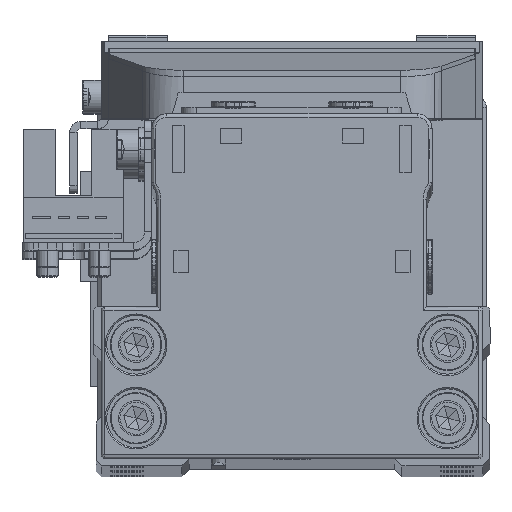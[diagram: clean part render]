
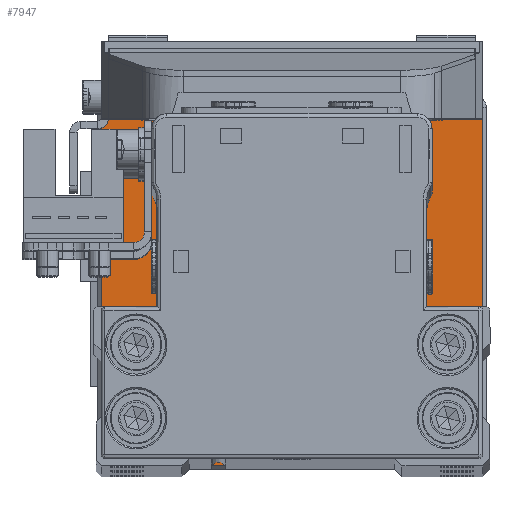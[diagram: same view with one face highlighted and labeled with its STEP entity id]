
A CAD part, top view. The second image highlights one B-rep face of the part: STEP entity #7947.
In plain terms, the highlighted planar face has unit normal (0, 0, 1).
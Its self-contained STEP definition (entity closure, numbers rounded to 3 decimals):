
#90 = AXIS2_PLACEMENT_3D ( 'NONE', #13056, #23697, #34344 ) ;
#261 = CARTESIAN_POINT ( 'NONE',  ( 25., -24.95, 6.5 ) ) ;
#367 = EDGE_CURVE ( 'NONE', #15391, #20358, #17716, .T. ) ;
#489 = DIRECTION ( 'NONE',  ( 0., 0., -1. ) ) ;
#906 = EDGE_CURVE ( 'NONE', #27609, #6110, #7268, .T. ) ;
#1055 = DIRECTION ( 'NONE',  ( 1., 0., 0. ) ) ;
#1074 = ORIENTED_EDGE ( 'NONE', *, *, #1872, .T. ) ;
#1604 = CARTESIAN_POINT ( 'NONE',  ( 0., 0., 6.5 ) ) ;
#1872 = EDGE_CURVE ( 'NONE', #11095, #23950, #6388, .T. ) ;
#2217 = DIRECTION ( 'NONE',  ( -1., 0., 0. ) ) ;
#2468 = VERTEX_POINT ( 'NONE', #21880 ) ;
#2508 = DIRECTION ( 'NONE',  ( 0., 0., 1. ) ) ;
#2681 = AXIS2_PLACEMENT_3D ( 'NONE', #5753, #16382, #27044 ) ;
#2695 = CARTESIAN_POINT ( 'NONE',  ( 21.25, 19.95, 6.5 ) ) ;
#3501 = CIRCLE ( 'NONE', #22993, 2.4 ) ;
#3809 = CIRCLE ( 'NONE', #23323, 1. ) ;
#4036 = EDGE_LOOP ( 'NONE', ( #1074, #10816 ) ) ;
#4212 = FACE_BOUND ( 'NONE', #20628, .T. ) ;
#4559 = VERTEX_POINT ( 'NONE', #18779 ) ;
#4577 = DIRECTION ( 'NONE',  ( 0., 0., -1. ) ) ;
#4831 = DIRECTION ( 'NONE',  ( -1., 0., 0. ) ) ;
#4969 = AXIS2_PLACEMENT_3D ( 'NONE', #33075, #9182, #19798 ) ;
#5056 = DIRECTION ( 'NONE',  ( 1., 0., 0. ) ) ;
#5156 = DIRECTION ( 'NONE',  ( -1., 0., 0. ) ) ;
#5375 = AXIS2_PLACEMENT_3D ( 'NONE', #26425, #2508, #13156 ) ;
#5753 = CARTESIAN_POINT ( 'NONE',  ( -25., -23.95, 6.5 ) ) ;
#6043 = AXIS2_PLACEMENT_3D ( 'NONE', #28495, #4577, #15224 ) ;
#6110 = VERTEX_POINT ( 'NONE', #17544 ) ;
#6166 = VERTEX_POINT ( 'NONE', #17901 ) ;
#6325 = ORIENTED_EDGE ( 'NONE', *, *, #30876, .T. ) ;
#6388 = CIRCLE ( 'NONE', #25900, 2.4 ) ;
#6506 = CARTESIAN_POINT ( 'NONE',  ( 18.85, 19.95, 6.5 ) ) ;
#6838 = FACE_BOUND ( 'NONE', #4036, .T. ) ;
#7268 = CIRCLE ( 'NONE', #4969, 2.4 ) ;
#7334 = CIRCLE ( 'NONE', #26855, 2.4 ) ;
#7585 = EDGE_CURVE ( 'NONE', #12183, #19236, #7334, .T. ) ;
#7876 = LINE ( 'NONE', #18507, #9857 ) ;
#7911 = ORIENTED_EDGE ( 'NONE', *, *, #29890, .T. ) ;
#7947 = ADVANCED_FACE ( 'NONE', ( #6838, #17476, #28141, #4212, #14866 ), #25517, .T. ) ;
#8106 = EDGE_CURVE ( 'NONE', #6166, #15391, #7876, .T. ) ;
#8136 = CARTESIAN_POINT ( 'NONE',  ( -23.65, 19.95, 6.5 ) ) ;
#9011 = CARTESIAN_POINT ( 'NONE',  ( 26., 23.95, 6.5 ) ) ;
#9182 = DIRECTION ( 'NONE',  ( 0., 0., -1. ) ) ;
#9248 = VECTOR ( 'NONE', #10925, 1000. ) ;
#9652 = DIRECTION ( 'NONE',  ( 0., 1., 0. ) ) ;
#9676 = AXIS2_PLACEMENT_3D ( 'NONE', #14314, #24962, #1055 ) ;
#9857 = VECTOR ( 'NONE', #29168, 1000. ) ;
#10197 = CARTESIAN_POINT ( 'NONE',  ( -21.25, 9.95, 6.5 ) ) ;
#10288 = ORIENTED_EDGE ( 'NONE', *, *, #7585, .T. ) ;
#10816 = ORIENTED_EDGE ( 'NONE', *, *, #16499, .T. ) ;
#10925 = DIRECTION ( 'NONE',  ( 1., 0., 0. ) ) ;
#11095 = VERTEX_POINT ( 'NONE', #6506 ) ;
#11122 = CARTESIAN_POINT ( 'NONE',  ( -26., -23.95, 6.5 ) ) ;
#11143 = DIRECTION ( 'NONE',  ( -1., 0., 0. ) ) ;
#11169 = VERTEX_POINT ( 'NONE', #12264 ) ;
#11222 = EDGE_CURVE ( 'NONE', #32285, #22725, #21061, .T. ) ;
#11809 = ORIENTED_EDGE ( 'NONE', *, *, #14212, .T. ) ;
#11843 = CIRCLE ( 'NONE', #31354, 2.4 ) ;
#11941 = CIRCLE ( 'NONE', #31455, 2.4 ) ;
#12183 = VERTEX_POINT ( 'NONE', #26994 ) ;
#12255 = DIRECTION ( 'NONE',  ( 0., 0., 1. ) ) ;
#12264 = CARTESIAN_POINT ( 'NONE',  ( 26., -23.95, 6.5 ) ) ;
#12470 = ORIENTED_EDGE ( 'NONE', *, *, #8106, .T. ) ;
#12922 = VECTOR ( 'NONE', #5156, 1000. ) ;
#13056 = CARTESIAN_POINT ( 'NONE',  ( -21.25, 9.95, 6.5 ) ) ;
#13156 = DIRECTION ( 'NONE',  ( 1., 0., 0. ) ) ;
#13337 = DIRECTION ( 'NONE',  ( 0., 0., -1. ) ) ;
#13904 = EDGE_CURVE ( 'NONE', #33827, #2468, #20397, .T. ) ;
#14212 = EDGE_CURVE ( 'NONE', #11169, #33827, #22882, .T. ) ;
#14314 = CARTESIAN_POINT ( 'NONE',  ( -25., 23.95, 6.5 ) ) ;
#14866 = FACE_OUTER_BOUND ( 'NONE', #18189, .T. ) ;
#15136 = CIRCLE ( 'NONE', #90, 2.4 ) ;
#15167 = CARTESIAN_POINT ( 'NONE',  ( 23.65, 19.95, 6.5 ) ) ;
#15224 = DIRECTION ( 'NONE',  ( -1., 0., 0. ) ) ;
#15229 = EDGE_CURVE ( 'NONE', #6110, #27609, #11843, .T. ) ;
#15391 = VERTEX_POINT ( 'NONE', #11122 ) ;
#15486 = CARTESIAN_POINT ( 'NONE',  ( 21.25, 19.95, 6.5 ) ) ;
#15814 = EDGE_CURVE ( 'NONE', #4559, #6166, #24717, .T. ) ;
#16062 = CARTESIAN_POINT ( 'NONE',  ( 18.85, 9.95, 6.5 ) ) ;
#16382 = DIRECTION ( 'NONE',  ( 0., 0., 1. ) ) ;
#16499 = EDGE_CURVE ( 'NONE', #23950, #11095, #11941, .T. ) ;
#17476 = FACE_BOUND ( 'NONE', #29020, .T. ) ;
#17544 = CARTESIAN_POINT ( 'NONE',  ( -18.85, 19.95, 6.5 ) ) ;
#17716 = CIRCLE ( 'NONE', #2681, 1. ) ;
#17901 = CARTESIAN_POINT ( 'NONE',  ( -26., 23.95, 6.5 ) ) ;
#18093 = CARTESIAN_POINT ( 'NONE',  ( -21.25, 19.95, 6.5 ) ) ;
#18189 = EDGE_LOOP ( 'NONE', ( #33682, #12470, #23130, #24790, #26028, #11809, #21947, #7911 ) ) ;
#18322 = CARTESIAN_POINT ( 'NONE',  ( 25., -23.95, 6.5 ) ) ;
#18404 = LINE ( 'NONE', #29065, #12922 ) ;
#18507 = CARTESIAN_POINT ( 'NONE',  ( -26., -23.95, 6.5 ) ) ;
#18779 = CARTESIAN_POINT ( 'NONE',  ( -25., 24.95, 6.5 ) ) ;
#19236 = VERTEX_POINT ( 'NONE', #20717 ) ;
#19798 = DIRECTION ( 'NONE',  ( -1., 0., 0. ) ) ;
#20358 = VERTEX_POINT ( 'NONE', #31255 ) ;
#20397 = CIRCLE ( 'NONE', #5375, 1. ) ;
#20420 = EDGE_CURVE ( 'NONE', #22958, #11169, #3809, .T. ) ;
#20628 = EDGE_LOOP ( 'NONE', ( #26055, #33022 ) ) ;
#20717 = CARTESIAN_POINT ( 'NONE',  ( -18.85, 9.95, 6.5 ) ) ;
#20816 = DIRECTION ( 'NONE',  ( 0., 0., -1. ) ) ;
#21061 = CIRCLE ( 'NONE', #6043, 2.4 ) ;
#21278 = ORIENTED_EDGE ( 'NONE', *, *, #25765, .T. ) ;
#21880 = CARTESIAN_POINT ( 'NONE',  ( 25., 24.95, 6.5 ) ) ;
#21947 = ORIENTED_EDGE ( 'NONE', *, *, #13904, .T. ) ;
#22725 = VERTEX_POINT ( 'NONE', #26448 ) ;
#22870 = DIRECTION ( 'NONE',  ( 1., 0., 0. ) ) ;
#22882 = LINE ( 'NONE', #33534, #31378 ) ;
#22958 = VERTEX_POINT ( 'NONE', #27654 ) ;
#22993 = AXIS2_PLACEMENT_3D ( 'NONE', #24397, #489, #11143 ) ;
#23130 = ORIENTED_EDGE ( 'NONE', *, *, #367, .T. ) ;
#23323 = AXIS2_PLACEMENT_3D ( 'NONE', #18322, #28975, #5056 ) ;
#23697 = DIRECTION ( 'NONE',  ( 0., 0., -1. ) ) ;
#23950 = VERTEX_POINT ( 'NONE', #15167 ) ;
#23979 = DIRECTION ( 'NONE',  ( -1., 0., 0. ) ) ;
#24175 = LINE ( 'NONE', #261, #9248 ) ;
#24397 = CARTESIAN_POINT ( 'NONE',  ( 21.25, 9.95, 6.5 ) ) ;
#24717 = CIRCLE ( 'NONE', #9676, 1. ) ;
#24790 = ORIENTED_EDGE ( 'NONE', *, *, #31315, .T. ) ;
#24962 = DIRECTION ( 'NONE',  ( 0., 0., 1. ) ) ;
#25445 = AXIS2_PLACEMENT_3D ( 'NONE', #1604, #12255, #22870 ) ;
#25517 = PLANE ( 'NONE',  #25445 ) ;
#25765 = EDGE_CURVE ( 'NONE', #19236, #12183, #15136, .T. ) ;
#25900 = AXIS2_PLACEMENT_3D ( 'NONE', #15486, #26140, #2217 ) ;
#26028 = ORIENTED_EDGE ( 'NONE', *, *, #20420, .T. ) ;
#26055 = ORIENTED_EDGE ( 'NONE', *, *, #906, .T. ) ;
#26140 = DIRECTION ( 'NONE',  ( 0., 0., -1. ) ) ;
#26425 = CARTESIAN_POINT ( 'NONE',  ( 25., 23.95, 6.5 ) ) ;
#26448 = CARTESIAN_POINT ( 'NONE',  ( 23.65, 9.95, 6.5 ) ) ;
#26855 = AXIS2_PLACEMENT_3D ( 'NONE', #10197, #20816, #31489 ) ;
#26994 = CARTESIAN_POINT ( 'NONE',  ( -23.65, 9.95, 6.5 ) ) ;
#27044 = DIRECTION ( 'NONE',  ( 1., 0., 0. ) ) ;
#27609 = VERTEX_POINT ( 'NONE', #8136 ) ;
#27654 = CARTESIAN_POINT ( 'NONE',  ( 25., -24.95, 6.5 ) ) ;
#28141 = FACE_BOUND ( 'NONE', #33047, .T. ) ;
#28495 = CARTESIAN_POINT ( 'NONE',  ( 21.25, 9.95, 6.5 ) ) ;
#28750 = DIRECTION ( 'NONE',  ( 0., 0., -1. ) ) ;
#28975 = DIRECTION ( 'NONE',  ( 0., 0., 1. ) ) ;
#29020 = EDGE_LOOP ( 'NONE', ( #33914, #6325 ) ) ;
#29065 = CARTESIAN_POINT ( 'NONE',  ( -25., 24.95, 6.5 ) ) ;
#29168 = DIRECTION ( 'NONE',  ( 0., -1., 0. ) ) ;
#29890 = EDGE_CURVE ( 'NONE', #2468, #4559, #18404, .T. ) ;
#30876 = EDGE_CURVE ( 'NONE', #22725, #32285, #3501, .T. ) ;
#31255 = CARTESIAN_POINT ( 'NONE',  ( -25., -24.95, 6.5 ) ) ;
#31315 = EDGE_CURVE ( 'NONE', #20358, #22958, #24175, .T. ) ;
#31354 = AXIS2_PLACEMENT_3D ( 'NONE', #18093, #28750, #4831 ) ;
#31378 = VECTOR ( 'NONE', #9652, 1000. ) ;
#31455 = AXIS2_PLACEMENT_3D ( 'NONE', #2695, #13337, #23979 ) ;
#31489 = DIRECTION ( 'NONE',  ( -1., 0., 0. ) ) ;
#32285 = VERTEX_POINT ( 'NONE', #16062 ) ;
#33022 = ORIENTED_EDGE ( 'NONE', *, *, #15229, .T. ) ;
#33047 = EDGE_LOOP ( 'NONE', ( #10288, #21278 ) ) ;
#33075 = CARTESIAN_POINT ( 'NONE',  ( -21.25, 19.95, 6.5 ) ) ;
#33534 = CARTESIAN_POINT ( 'NONE',  ( 26., 23.95, 6.5 ) ) ;
#33682 = ORIENTED_EDGE ( 'NONE', *, *, #15814, .T. ) ;
#33827 = VERTEX_POINT ( 'NONE', #9011 ) ;
#33914 = ORIENTED_EDGE ( 'NONE', *, *, #11222, .T. ) ;
#34344 = DIRECTION ( 'NONE',  ( -1., 0., 0. ) ) ;
